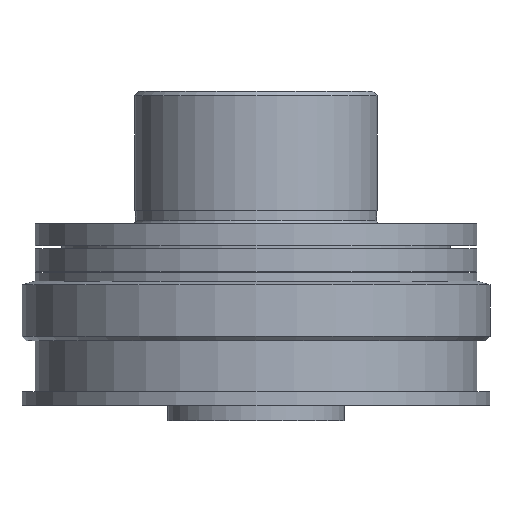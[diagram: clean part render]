
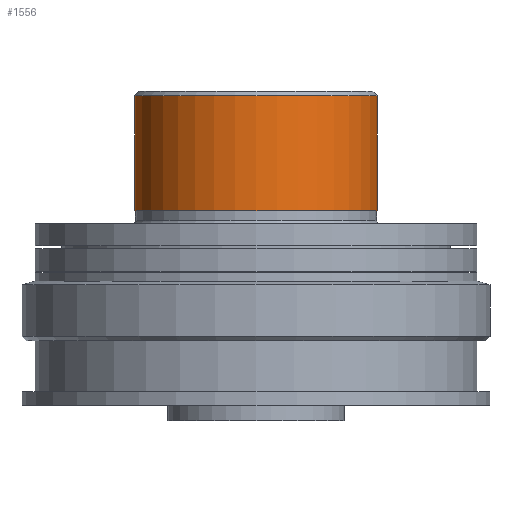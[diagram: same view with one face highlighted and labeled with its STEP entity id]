
A CAD part, front view. The second image highlights one B-rep face of the part: STEP entity #1556.
In plain terms, the highlighted cylindrical face has radius 27.5 mm (diameter 55 mm), a partial arc.
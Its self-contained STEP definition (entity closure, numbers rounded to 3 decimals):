
#280 = CIRCLE ( 'NONE', #2380, 27.5 ) ;
#639 = VERTEX_POINT ( 'NONE', #5754 ) ;
#652 = VERTEX_POINT ( 'NONE', #5881 ) ;
#765 = VERTEX_POINT ( 'NONE', #6032 ) ;
#843 = VERTEX_POINT ( 'NONE', #5876 ) ;
#1556 = ADVANCED_FACE ( 'NONE', ( #4539 ), #4563, .T. ) ;
#1909 = EDGE_LOOP ( 'NONE', ( #8940, #8816, #8858, #8804 ) ) ;
#2352 = AXIS2_PLACEMENT_3D ( 'NONE', #9825, #9986, #9993 ) ;
#2380 = AXIS2_PLACEMENT_3D ( 'NONE', #4724, #4732, #4731 ) ;
#3165 = CIRCLE ( 'NONE', #2352, 27.5 ) ;
#4539 = FACE_OUTER_BOUND ( 'NONE', #1909, .T. ) ;
#4563 = CYLINDRICAL_SURFACE ( 'NONE', #7791, 27.5 ) ;
#4724 = CARTESIAN_POINT ( 'NONE',  ( 0., 0., 70.1 ) ) ;
#4731 = DIRECTION ( 'NONE',  ( 1., 0., 0. ) ) ;
#4732 = DIRECTION ( 'NONE',  ( 0., 0., -1. ) ) ;
#4738 = DIRECTION ( 'NONE',  ( 0., 0., 1. ) ) ;
#4970 = CARTESIAN_POINT ( 'NONE',  ( 27.5, 0., -108.481 ) ) ;
#5043 = CARTESIAN_POINT ( 'NONE',  ( -27.5, 0., -108.481 ) ) ;
#5051 = DIRECTION ( 'NONE',  ( 0., 0., 1. ) ) ;
#5754 = CARTESIAN_POINT ( 'NONE',  ( 27.5, 0., 44.1 ) ) ;
#5876 = CARTESIAN_POINT ( 'NONE',  ( -27.5, 0., 44.1 ) ) ;
#5881 = CARTESIAN_POINT ( 'NONE',  ( -27.5, 0., 70.1 ) ) ;
#6032 = CARTESIAN_POINT ( 'NONE',  ( 27.5, 0., 70.1 ) ) ;
#6803 = EDGE_CURVE ( 'NONE', #639, #843, #3165, .T. ) ;
#6939 = EDGE_CURVE ( 'NONE', #765, #652, #280, .T. ) ;
#7522 = DIRECTION ( 'NONE',  ( 0., 0., 1. ) ) ;
#7575 = DIRECTION ( 'NONE',  ( 1., 0., 0. ) ) ;
#7626 = CARTESIAN_POINT ( 'NONE',  ( 0., 0., -108.481 ) ) ;
#7791 = AXIS2_PLACEMENT_3D ( 'NONE', #7626, #7522, #7575 ) ;
#7948 = EDGE_CURVE ( 'NONE', #843, #652, #9402, .T. ) ;
#7949 = EDGE_CURVE ( 'NONE', #639, #765, #9397, .T. ) ;
#8804 = ORIENTED_EDGE ( 'NONE', *, *, #6939, .T. ) ;
#8816 = ORIENTED_EDGE ( 'NONE', *, *, #6803, .F. ) ;
#8858 = ORIENTED_EDGE ( 'NONE', *, *, #7949, .T. ) ;
#8940 = ORIENTED_EDGE ( 'NONE', *, *, #7948, .F. ) ;
#9397 = LINE ( 'NONE', #4970, #9401 ) ;
#9400 = VECTOR ( 'NONE', #5051, 1000. ) ;
#9401 = VECTOR ( 'NONE', #4738, 1000. ) ;
#9402 = LINE ( 'NONE', #5043, #9400 ) ;
#9825 = CARTESIAN_POINT ( 'NONE',  ( 0., 0., 44.1 ) ) ;
#9986 = DIRECTION ( 'NONE',  ( 0., 0., -1. ) ) ;
#9993 = DIRECTION ( 'NONE',  ( 1., 0., 0. ) ) ;
